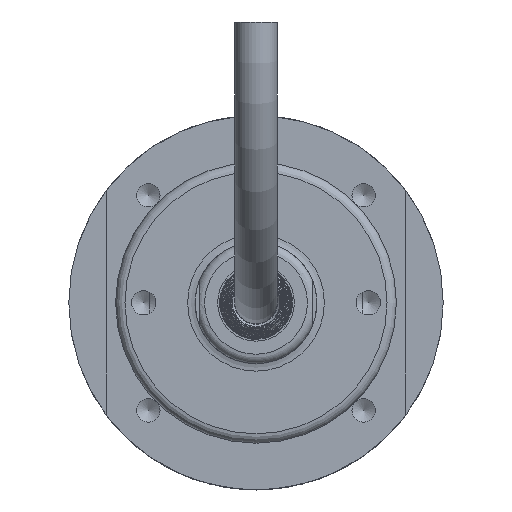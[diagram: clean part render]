
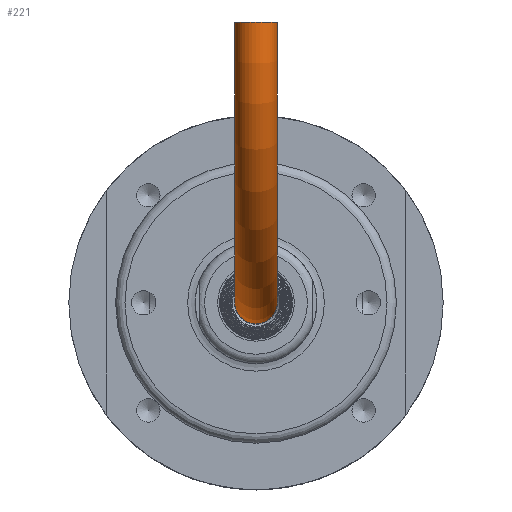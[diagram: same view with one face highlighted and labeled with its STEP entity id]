
A CAD part, front view. The second image highlights one B-rep face of the part: STEP entity #221.
In plain terms, the highlighted toroidal (fillet/blend) face has major radius 30 mm and minor radius 2.25 mm.
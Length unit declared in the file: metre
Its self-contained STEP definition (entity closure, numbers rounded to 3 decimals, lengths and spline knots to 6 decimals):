
#221 = ADVANCED_FACE( '', ( #450, #451 ), #452, .T. );
#450 = FACE_OUTER_BOUND( '', #1243, .T. );
#451 = FACE_OUTER_BOUND( '', #1244, .T. );
#452 = TOROIDAL_SURFACE( '', #1245, 0.03, 0.00225 );
#1243 = EDGE_LOOP( '', ( #11595 ) );
#1244 = EDGE_LOOP( '', ( #11596 ) );
#1245 = AXIS2_PLACEMENT_3D( '', #11597, #11598, #11599 );
#11595 = ORIENTED_EDGE( '', *, *, #12046, .T. );
#11596 = ORIENTED_EDGE( '', *, *, #12047, .F. );
#11597 = CARTESIAN_POINT( '', ( 0., -0.043, 0.03 ) );
#11598 = DIRECTION( '', ( -1., 0., 0. ) );
#11599 = DIRECTION( '', ( 0., 1., 0. ) );
#12046 = EDGE_CURVE( '', #12357, #12357, #12358, .T. );
#12047 = EDGE_CURVE( '', #12359, #12359, #12360, .T. );
#12357 = VERTEX_POINT( '', #13327 );
#12358 = CIRCLE( '', #13328, 0.00225 );
#12359 = VERTEX_POINT( '', #13329 );
#12360 = CIRCLE( '', #13330, 0.00225 );
#13327 = CARTESIAN_POINT( '', ( 0.00225, -0.043, 0. ) );
#13328 = AXIS2_PLACEMENT_3D( '', #17419, #17420, #17421 );
#13329 = CARTESIAN_POINT( '', ( 0., -0.07075, 0.03 ) );
#13330 = AXIS2_PLACEMENT_3D( '', #17422, #17423, #17424 );
#17419 = CARTESIAN_POINT( '', ( 0., -0.043, 0. ) );
#17420 = DIRECTION( '', ( 0., -1., 0. ) );
#17421 = DIRECTION( '', ( 1., 0., 0. ) );
#17422 = CARTESIAN_POINT( '', ( 0., -0.073, 0.03 ) );
#17423 = DIRECTION( '', ( 0., 0., 1. ) );
#17424 = DIRECTION( '', ( 0., 1., 0. ) );
